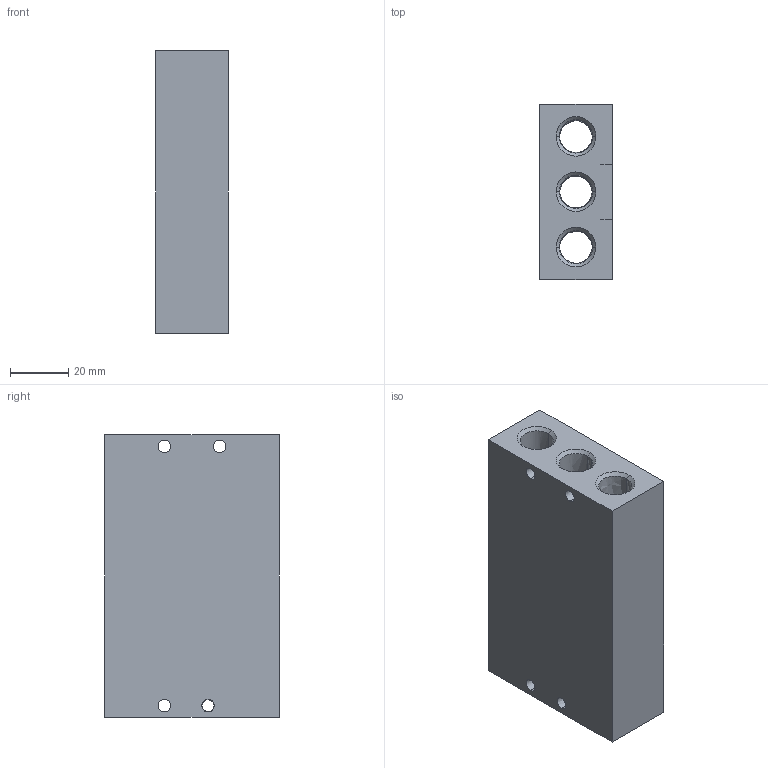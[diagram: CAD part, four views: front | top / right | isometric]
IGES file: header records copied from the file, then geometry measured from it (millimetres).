
Global section: file name: No Iges File Name specified; native system: AutoDesk Inventor R11.0; preprocessor: AutoDesk Inventor Iges Exporter R11.0; author: No Author specified; organization: No Organization specified; date: 20061201.115611; units: millimetre
Bounding box: 25 x 60 x 97 mm (x, y, z)
Volume: 106562.3 mm3; surface area: 32738.5 mm2
Topology: 1 solids, 1 shells, 161 faces, 421 edges, 253 vertices
Faces by surface type: bspline 149, revolution 6, plane 6
